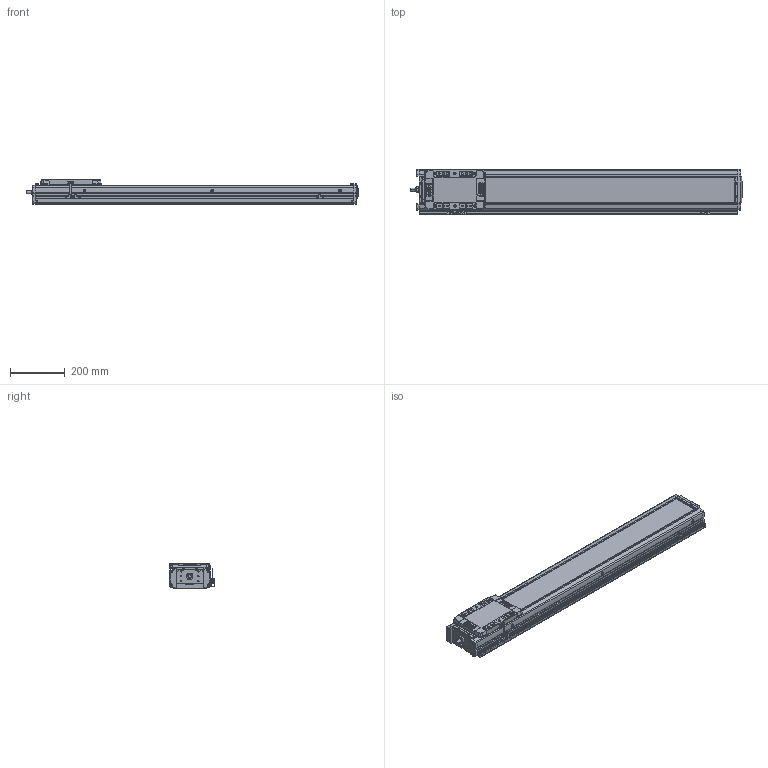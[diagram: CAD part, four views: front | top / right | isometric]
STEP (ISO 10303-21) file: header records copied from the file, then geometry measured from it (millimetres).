
FILE_DESCRIPTION(('STEP AP214'),'1');
FILE_NAME('Z:/Web/3D/SAN150/2013.04 (STP.)/SAN150ㅁㅁ-900+3SR.stp','2013-05-07T10:35:21',(' '),(' '),'Spatial InterOp 3D',' ',' ');
FILE_SCHEMA(('automotive_design'));
Length unit declared in the file: millimetre
Products named in the file (55): SLBL-SAN150; SLCV-SAN150; FHCS M4.0 x 8.0; BHCS M4.0 x 10.0; SFX-SAN150; RRCV-SAN150; FRBL-SAN150; Spacer; RN15; FRCV-SAN150; Screw 20; BASE-SAN150-000L ; SUS COVER; 스크루 : Round - M5.0 x 6.0; M3.0 x 6.0; SRL-16x17-360L; SGD-SAN150; EE-SX674; SBK-SX674-352; 스크루 : Round - M3.0 x 6.0
Bounding box: 1208 x 166 x 90 mm (x, y, z)
Volume: 6500924.6 mm3; surface area: 1318689.1 mm2
Topology: 55 solids, 55 shells, 2648 faces, 6833 edges, 4386 vertices
Faces by surface type: plane 1374, cylinder 875, cone 294, sphere 72, bspline 21, torus 12
Entity records: 105277 total; most frequent: CARTESIAN_POINT 17024, DIRECTION 14410, ORIENTED_EDGE 13426, EDGE_CURVE 6713, AXIS2_PLACEMENT_3D 5119, VERTEX_POINT 4386, LINE 4172, VECTOR 4172
